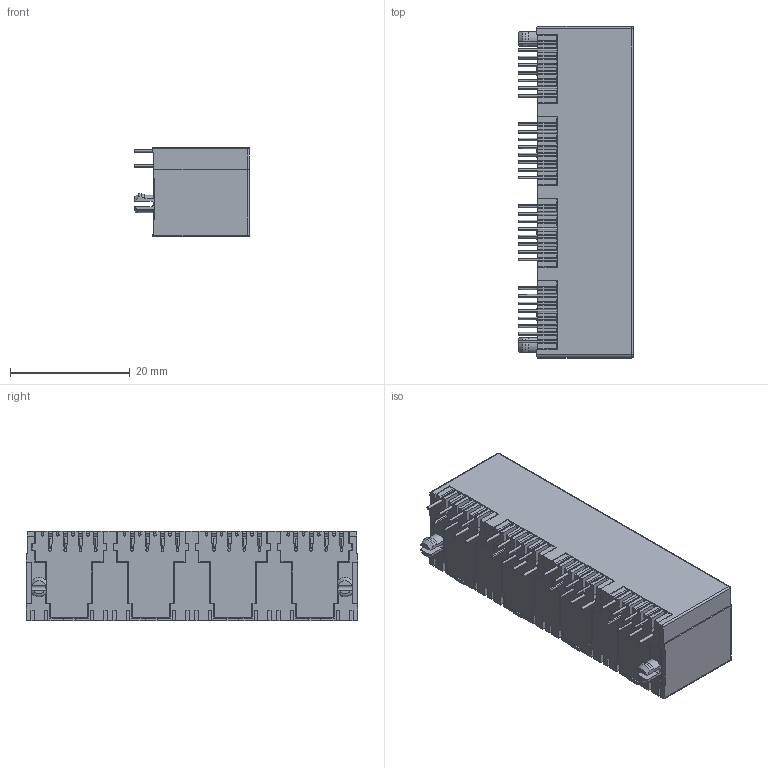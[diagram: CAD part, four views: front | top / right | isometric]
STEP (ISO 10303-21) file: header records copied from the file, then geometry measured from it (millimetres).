
FILE_DESCRIPTION((''),'2;1');
FILE_NAME('5224S-LED-1X4-8P8C-B368_ASM','2023-11-29T14:06:32',('HQW'),(''),'CREO PARAMETRIC BY PTC INC, 2023294','CREO PARAMETRIC BY PTC INC, 2023294','');
FILE_SCHEMA(('CONFIG_CONTROL_DESIGN','GEOMETRIC_VALIDATION_PROPERTIES_MIM'));
Length unit declared in the file: millimetre
Products named in the file (3): 5224-LED-1X4-8P00; 52240001; 5224S-LED-1X4-8P8C-B368_ASM
Assembly tree (5 placements, depth 2):
  5224S-LED-1X4-8P8C-B368_ASM
    5224-LED-1X4-8P00
    52240001  x4
Bounding box: 19.2 x 55.5 x 15.05 mm (x, y, z)
Volume: 6716.1 mm3; surface area: 12188.1 mm2
Topology: 5 solids, 5 shells, 1878 faces, 5522 edges, 3566 vertices
Faces by surface type: plane 1370, cylinder 370, torus 66, bspline 64, sphere 4, cone 4
Entity records: 33520 total; most frequent: CARTESIAN_POINT 7312, ORIENTED_EDGE 5434, DIRECTION 4635, EDGE_CURVE 2717, VECTOR 2331, LINE 2331, VERTEX_POINT 1760, AXIS2_PLACEMENT_3D 1152
